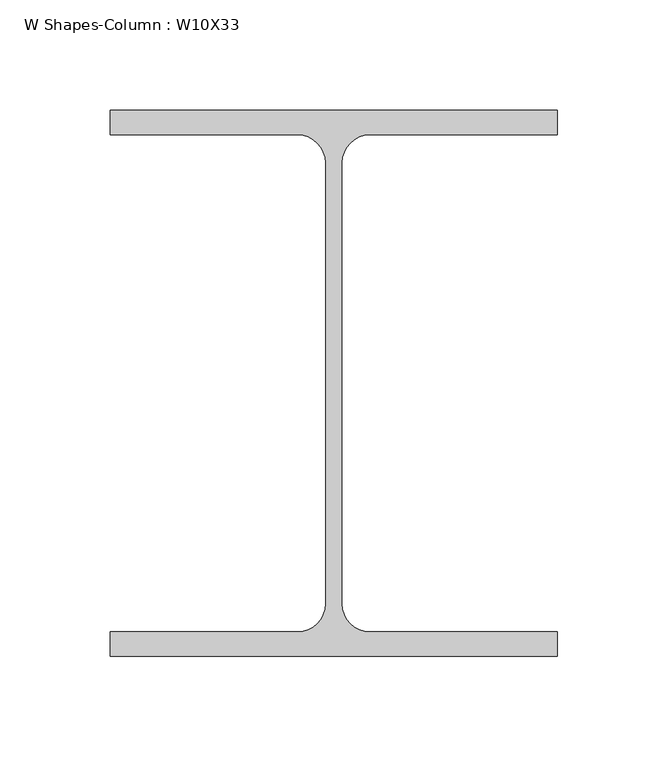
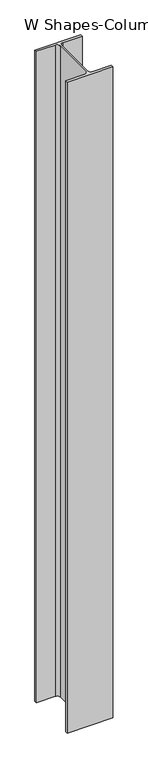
"""IFC4 building model written with IfcOpenShell, lengths in millimetres: column geometry, W Shapes-Column : W10X33."""

from ifc_helpers import new_model, si_unit, point, frame_2d, origin, origin_with_axes, place, context, project, spatial, polyline, circle_curve, trimmed, segment, composite_curve, outline, extrude, source, transform, mapped, element, save


def w_shapes_column_w10x33_b5b4db87(model_context):
    return source(origin(), model_context, "Body", "SweptSolid", [
        extrude(outline(composite_curve([segment(polyline([(101.092, 123.571), (101.092, 112.522), (16.383, 112.522)]), True, "CONTINUOUS"), segment(trimmed(circle_curve(frame_2d((16.383, 99.822)), 12.7), [point((16.383, 112.522))], [point((3.683, 99.822))], True, "CARTESIAN"), True, "CONTINUOUS"), segment(polyline([(3.683, 99.822), (3.683, -99.822)]), True, "CONTINUOUS"), segment(trimmed(circle_curve(frame_2d((16.383, -99.822)), 12.7), [point((3.683, -99.822))], [point((16.383, -112.522))], True, "CARTESIAN"), True, "CONTINUOUS"), segment(polyline([(16.383, -112.522), (101.092, -112.522), (101.092, -123.571), (-101.092, -123.571), (-101.092, -112.522), (-16.383, -112.522)]), True, "CONTINUOUS"), segment(trimmed(circle_curve(frame_2d((-16.383, -99.822)), 12.7), [point((-16.383, -112.522))], [point((-3.683, -99.822))], True, "CARTESIAN"), True, "CONTINUOUS"), segment(polyline([(-3.683, -99.822), (-3.683, 99.822)]), True, "CONTINUOUS"), segment(trimmed(circle_curve(frame_2d((-16.383, 99.822)), 12.7), [point((-3.683, 99.822))], [point((-16.383, 112.522))], True, "CARTESIAN"), True, "CONTINUOUS"), segment(polyline([(-16.383, 112.522), (-101.092, 112.522), (-101.092, 123.571), (101.092, 123.571)]), True, "CONTINUOUS")], self_intersect=False)), origin_with_axes(), (0.0, 0.0, 1.0), 3048.0),
    ])


if __name__ == "__main__":
    model = new_model("IFC4")
    model_context = context("Model", 3, world=origin())
    ifc_project = project(units=[si_unit("LENGTHUNIT", "METRE", prefix="MILLI")], contexts=[model_context])
    site = spatial("IfcSite", under=ifc_project)
    building = spatial("IfcBuilding", under=site)
    placement = place(None, origin())
    w_shapes_column_w10x33_shape = w_shapes_column_w10x33_b5b4db87(model_context)
    element("IfcColumn", 1, ObjectType="W Shapes-Column : W10X33", at=placement, inside=building, context=model_context, shape_type="MappedRepresentation", body=[
        mapped(w_shapes_column_w10x33_shape, transform((0.0, 0.0, 0.0), x_axis=(1.0, 0.0, 0.0), y_axis=(0.0, 1.0, 0.0), z_axis=(0.0, 0.0, 1.0))),
    ])
    save(model, "model.ifc")
